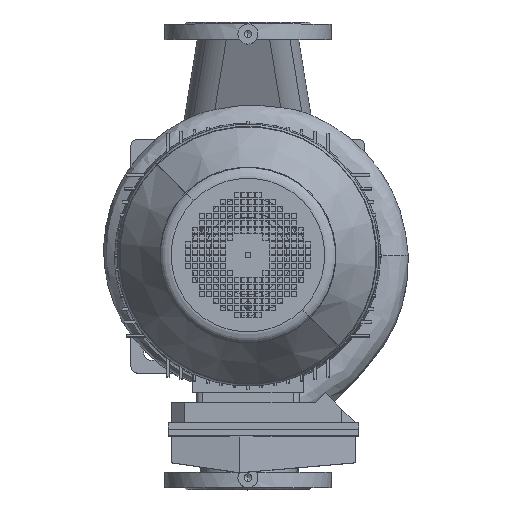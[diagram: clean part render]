
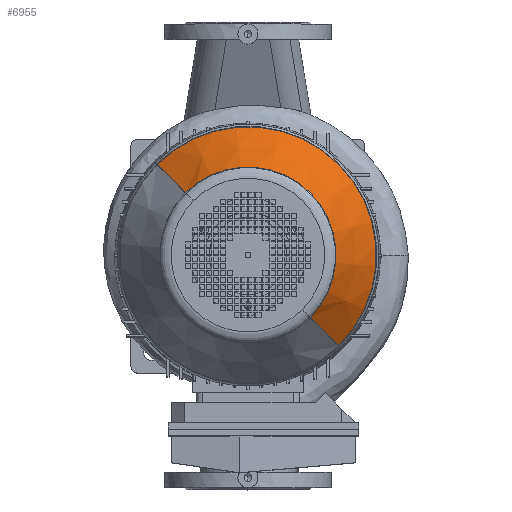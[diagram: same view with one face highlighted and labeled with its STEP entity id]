
A CAD part, top view. The second image highlights one B-rep face of the part: STEP entity #6955.
In plain terms, the highlighted conical face has half-angle 32.471 degrees and reference radius 126 mm.
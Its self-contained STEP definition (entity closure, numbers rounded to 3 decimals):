
#6955=ADVANCED_FACE('',(#17825),#17826,.T.);
#8651=EDGE_CURVE('',#20788,#20789,#20790,.T.);
#8653=EDGE_CURVE('',#20792,#20793,#20794,.T.);
#17825=FACE_OUTER_BOUND('',#34182,.T.);
#17826=CONICAL_SURFACE('',#34183,126.0,0.567);
#20788=VERTEX_POINT('',#37150);
#20789=VERTEX_POINT('',#37151);
#20790=CIRCLE('',#37152,192.873);
#20792=VERTEX_POINT('',#37155);
#20793=VERTEX_POINT('',#37156);
#20794=CIRCLE('',#37157,131.894);
#34182=EDGE_LOOP('',(#59448,#59449,#59450,#59451));
#34183=AXIS2_PLACEMENT_3D('',#59452,#59453,#59454);
#37150=CARTESIAN_POINT('',(192.873,0.,114.913));
#37151=CARTESIAN_POINT('',(-192.873,0.,114.913));
#37152=AXIS2_PLACEMENT_3D('',#67903,#67904,#67905);
#37155=CARTESIAN_POINT('',(-131.894,0.,210.738));
#37156=CARTESIAN_POINT('',(131.894,0.,210.738));
#37157=AXIS2_PLACEMENT_3D('',#67906,#67907,#67908);
#59448=ORIENTED_EDGE('',*,*,#76568,.F.);
#59449=ORIENTED_EDGE('',*,*,#8651,.F.);
#59450=ORIENTED_EDGE('',*,*,#76569,.F.);
#59451=ORIENTED_EDGE('',*,*,#8653,.F.);
#59452=CARTESIAN_POINT('',(0.0,0.0,220.0));
#59453=DIRECTION('',(-0.0,-0.0,-1.0));
#59454=DIRECTION('',(-1.0,0.,0.0));
#67903=CARTESIAN_POINT('',(0.0,0.0,114.913));
#67904=DIRECTION('',(0.0,0.0,-1.0));
#67905=DIRECTION('',(1.0,0.,0.0));
#67906=CARTESIAN_POINT('',(0.0,0.0,210.738));
#67907=DIRECTION('',(0.0,-0.0,1.0));
#67908=DIRECTION('',(1.0,0.,0.0));
#76568=EDGE_CURVE('',#20789,#20792,#81491,.T.);
#76569=EDGE_CURVE('',#20793,#20788,#81492,.T.);
#81491=LINE('',#89018,#89019);
#81492=LINE('',#89020,#89021);
#89018=CARTESIAN_POINT('',(-126.0,0.,220.0));
#89019=VECTOR('',#95659,1.0);
#89020=CARTESIAN_POINT('',(126.0,0.,220.0));
#89021=VECTOR('',#95660,1.0);
#95659=DIRECTION('',(0.537,0.,0.844));
#95660=DIRECTION('',(0.537,0.,-0.844));
